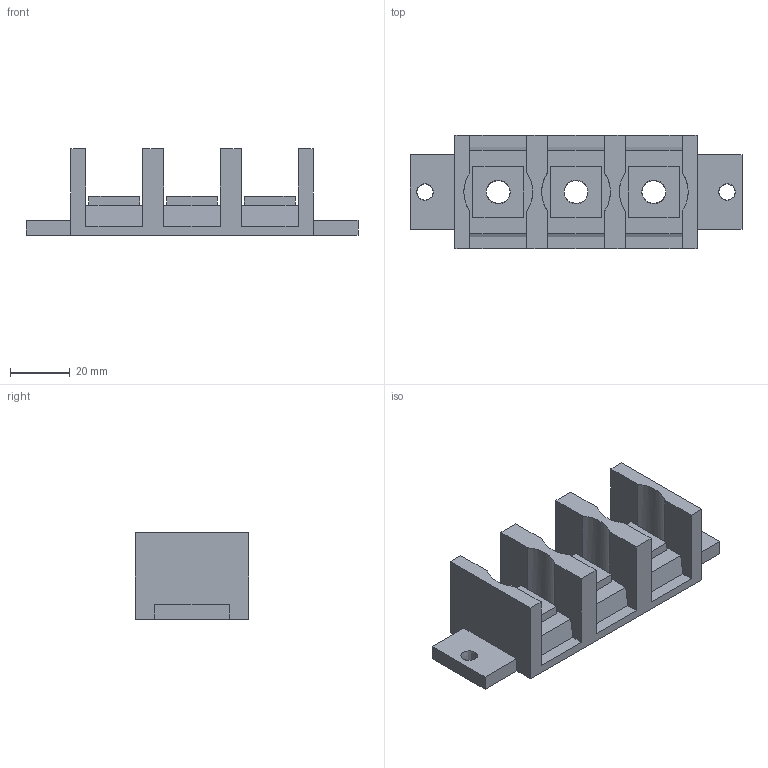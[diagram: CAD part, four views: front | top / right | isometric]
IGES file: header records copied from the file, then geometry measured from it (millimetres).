
Start section:  PTC IGES file: j4-du9-11k-te1.igs
Global section: file name: j4-du9-11k-te1.igs; native system: Creo Parametric by Parametric Technology Corporation; preprocessor: 2014310; author: JR20012; organization: Unknown; date: 20160927.133803; units: millimetre
Bounding box: 111 x 38 x 29 mm (x, y, z)
Volume: 46662.9 mm3; surface area: 18756.5 mm2
Topology: 1 solids, 1 shells, 75 faces, 210 edges, 140 vertices
Faces by surface type: bspline 75
